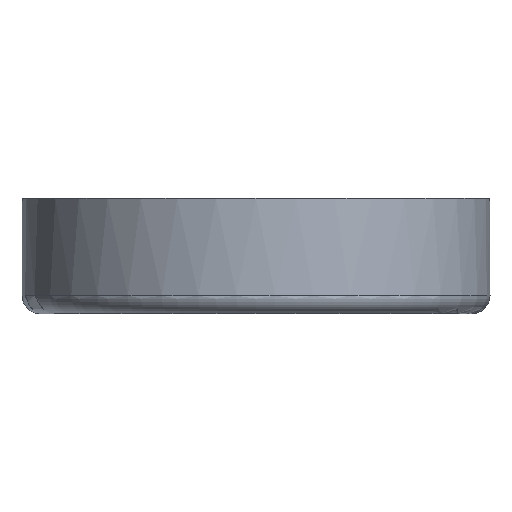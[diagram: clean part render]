
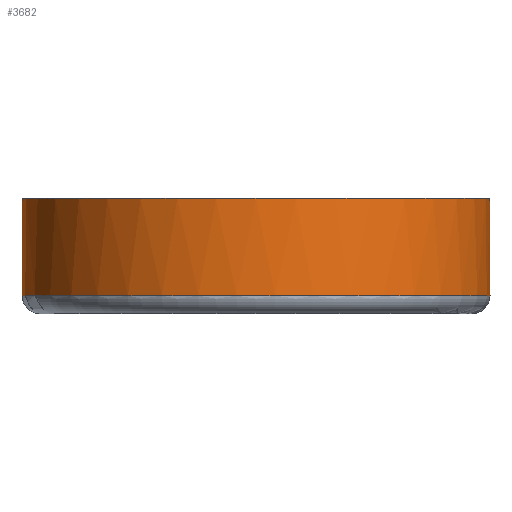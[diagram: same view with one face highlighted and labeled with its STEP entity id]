
A CAD part, front view. The second image highlights one B-rep face of the part: STEP entity #3682.
In plain terms, the highlighted cylindrical face has radius 65 mm (diameter 130 mm), a partial arc.
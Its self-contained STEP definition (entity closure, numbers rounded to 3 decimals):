
#327=DIRECTION('',(0.,0.,-1.));
#328=VECTOR('',#327,27.);
#329=CARTESIAN_POINT('',(51.235,40.,32.));
#330=LINE('',#329,#328);
#335=DIRECTION('',(0.,0.,1.));
#336=VECTOR('',#335,27.);
#337=CARTESIAN_POINT('',(-51.235,40.,5.));
#338=LINE('',#337,#336);
#1782=CARTESIAN_POINT('',(0.,0.,32.));
#1783=DIRECTION('',(0.,0.,-1.));
#1784=DIRECTION('',(0.788,0.615,0.));
#1785=AXIS2_PLACEMENT_3D('',#1782,#1783,#1784);
#2057=CARTESIAN_POINT('',(0.,0.,5.));
#2058=DIRECTION('',(0.,0.,1.));
#2059=DIRECTION('',(-0.788,0.615,0.));
#2060=AXIS2_PLACEMENT_3D('',#2057,#2058,#2059);
#2065=CARTESIAN_POINT('',(0.,0.,5.));
#2066=DIRECTION('',(0.,0.,1.));
#2067=DIRECTION('',(-1.,0.,0.));
#2068=AXIS2_PLACEMENT_3D('',#2065,#2066,#2067);
#2073=CARTESIAN_POINT('',(0.,0.,5.));
#2074=DIRECTION('',(0.,0.,1.));
#2075=DIRECTION('',(0.788,-0.615,0.));
#2076=AXIS2_PLACEMENT_3D('',#2073,#2074,#2075);
#2081=CARTESIAN_POINT('',(0.,0.,5.));
#2082=DIRECTION('',(0.,0.,1.));
#2083=DIRECTION('',(1.,0.,0.));
#2084=AXIS2_PLACEMENT_3D('',#2081,#2082,#2083);
#3180=CARTESIAN_POINT('',(-51.235,40.,5.));
#3181=CARTESIAN_POINT('',(-51.235,40.,32.));
#3182=VERTEX_POINT('',#3180);
#3183=VERTEX_POINT('',#3181);
#3184=CARTESIAN_POINT('',(51.235,40.,32.));
#3185=VERTEX_POINT('',#3184);
#3186=CARTESIAN_POINT('',(51.235,40.,5.));
#3187=VERTEX_POINT('',#3186);
#3188=CARTESIAN_POINT('',(-65.,0.,5.));
#3189=VERTEX_POINT('',#3188);
#3190=CARTESIAN_POINT('',(51.235,-40.,5.));
#3191=VERTEX_POINT('',#3190);
#3192=CARTESIAN_POINT('',(65.,0.,5.));
#3193=VERTEX_POINT('',#3192);
#3661=CARTESIAN_POINT('',(0.,0.,0.));
#3662=DIRECTION('',(0.,0.,-1.));
#3663=DIRECTION('',(1.,0.,0.));
#3664=AXIS2_PLACEMENT_3D('',#3661,#3662,#3663);
#3665=CYLINDRICAL_SURFACE('',#3664,65.);
#3667=ORIENTED_EDGE('',*,*,#3666,.T.);
#3669=ORIENTED_EDGE('',*,*,#3668,.F.);
#3671=ORIENTED_EDGE('',*,*,#3670,.T.);
#3673=ORIENTED_EDGE('',*,*,#3672,.F.);
#3675=ORIENTED_EDGE('',*,*,#3674,.F.);
#3677=ORIENTED_EDGE('',*,*,#3676,.F.);
#3679=ORIENTED_EDGE('',*,*,#3678,.F.);
#3680=EDGE_LOOP('',(#3667,#3669,#3671,#3673,#3675,#3677,#3679));
#3681=FACE_OUTER_BOUND('',#3680,.F.);
#1786=CIRCLE('',#1785,65.);
#2061=CIRCLE('',#2060,65.);
#2069=CIRCLE('',#2068,65.);
#2077=CIRCLE('',#2076,65.);
#2085=CIRCLE('',#2084,65.);
#3666=EDGE_CURVE('',#3182,#3183,#338,.T.);
#3668=EDGE_CURVE('',#3185,#3183,#1786,.T.);
#3670=EDGE_CURVE('',#3185,#3187,#330,.T.);
#3672=EDGE_CURVE('',#3193,#3187,#2085,.T.);
#3674=EDGE_CURVE('',#3191,#3193,#2077,.T.);
#3676=EDGE_CURVE('',#3189,#3191,#2069,.T.);
#3678=EDGE_CURVE('',#3182,#3189,#2061,.T.);
#3682=ADVANCED_FACE('',(#3681),#3665,.T.);
